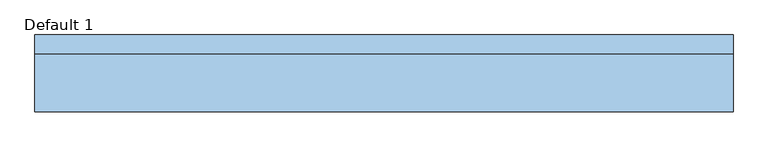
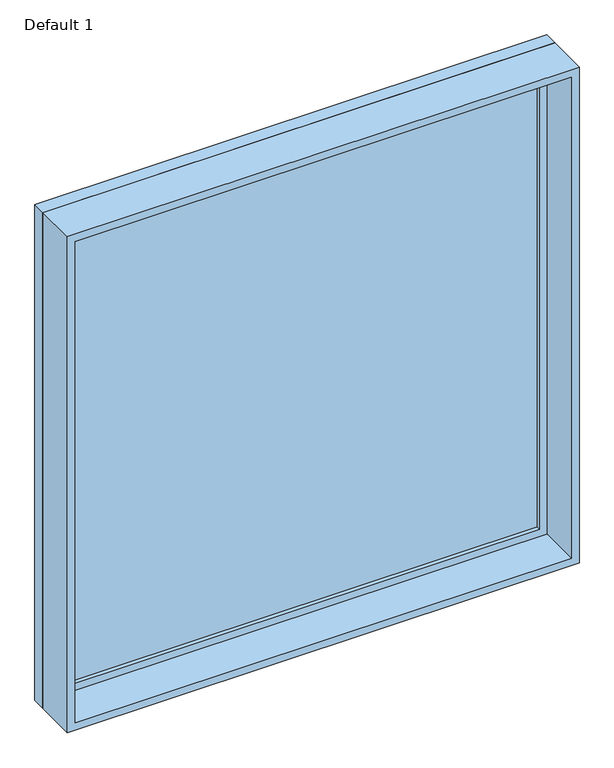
"""IFC4 building model written with IfcOpenShell, lengths in millimetres: window geometry, Planitar-Fixed : Default 1."""

from ifc_helpers import new_model, si_unit, frame, origin, place, context, project, spatial, polyline, outline, extrude, source, transform, mapped, element, save


def default_1_91f42d4c(model_context):
    return source(origin(), model_context, "Body", "SweptSolid", [
        extrude(outline(polyline([(3029.0, -1022.4), (933.4, -1022.4), (933.4, 1022.4), (3029.0, 1022.4), (3029.0, -1022.4)]), holes=[polyline([(2985.0, -978.4), (2985.0, 978.4), (977.4, 978.4), (977.4, -978.4), (2985.0, -978.4)])]), frame((0.0, 70.6, 0.0), z_axis=(0.0, 1.0, 0.0), x_axis=(0.0, 0.0, 1.0)), (0.0, 0.0, 1.0), 44.0),
        extrude(outline(polyline([(3048.0, -1041.4), (914.4, -1041.4), (914.4, 1041.4), (3048.0, 1041.4), (3048.0, -1041.4)]), holes=[polyline([(3029.0, -1022.4), (3029.0, 1022.4), (933.4, 1022.4), (933.4, -1022.4), (3029.0, -1022.4)])]), frame((0.0, 70.6, 0.0), z_axis=(0.0, 1.0, 0.0), x_axis=(0.0, 0.0, 1.0)), (0.0, 0.0, 1.0), 56.7),
        extrude(outline(polyline([(3048.0, -1041.4), (914.4, -1041.4), (914.4, 1041.4), (3048.0, 1041.4), (3048.0, -1041.4)]), holes=[polyline([(3016.0, -1009.4), (3016.0, 1009.4), (946.4, 1009.4), (946.4, -1009.4), (3016.0, -1009.4)])]), frame((0.0, -101.3, 0.0), z_axis=(0.0, 1.0, 0.0), x_axis=(0.0, 0.0, 1.0)), (0.0, 0.0, 1.0), 171.9),
        extrude(outline(polyline([(-978.4, 98.6), (978.4, 98.6), (978.4, 86.6), (-978.4, 86.6), (-978.4, 98.6)])), frame((0.0, 0.0, 977.4), z_axis=(0.0, 0.0, 1.0), x_axis=(1.0, 0.0, 0.0)), (0.0, 0.0, 1.0), 2007.6),
    ])


if __name__ == "__main__":
    model = new_model("IFC4")
    model_context = context("Model", 3, world=origin())
    ifc_project = project(units=[si_unit("LENGTHUNIT", "METRE", prefix="MILLI")], contexts=[model_context])
    site = spatial("IfcSite", under=ifc_project)
    building = spatial("IfcBuilding", under=site)
    placement = place(None, origin())
    default_1_shape = default_1_91f42d4c(model_context)
    element("IfcWindow", 1, ObjectType="Planitar-Fixed : Default 1", at=placement, inside=building, context=model_context, shape_type="MappedRepresentation", body=[
        mapped(default_1_shape, transform((0.0, 0.0, 0.0), x_axis=(1.0, 0.0, 0.0), y_axis=(0.0, 1.0, 0.0), z_axis=(0.0, 0.0, 1.0))),
    ])
    save(model, "model.ifc")
